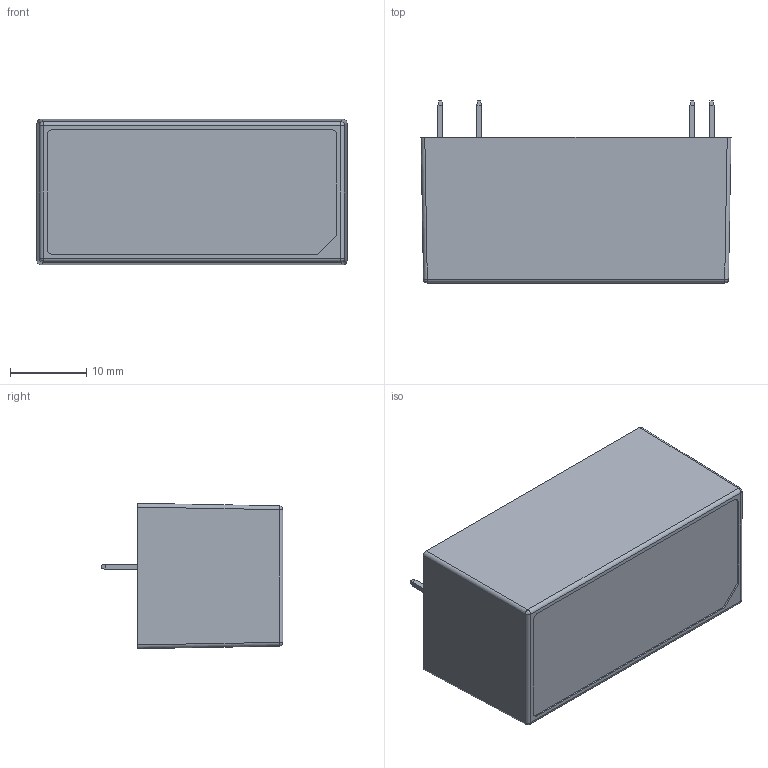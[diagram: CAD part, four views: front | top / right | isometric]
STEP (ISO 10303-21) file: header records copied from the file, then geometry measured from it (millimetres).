
FILE_DESCRIPTION (( 'STEP AP214' ), '1' );
FILE_NAME ('VCE03-E.STEP', '2019-06-14T04:59:19', ( '' ), ( '' ), 'SwSTEP 2.0', 'SolidWorks 2017', '' );
FILE_SCHEMA (( 'AUTOMOTIVE_DESIGN' ));
Length unit declared in the file: millimetre
Products named in the file (1): VCE03-E
Bounding box: 40.64 x 23.85 x 19.05 mm (x, y, z)
Volume: 6488 mm3; surface area: 11867.4 mm2
Topology: 16 solids, 16 shells, 633 faces, 1570 edges, 1001 vertices
Faces by surface type: plane 407, cylinder 118, bspline 96, cone 8, torus 4
Entity records: 28534 total; most frequent: CARTESIAN_POINT 6587, ORIENTED_EDGE 3124, DIRECTION 2958, EDGE_CURVE 1562, VECTOR 1090, LINE 1090, VERTEX_POINT 1001, AXIS2_PLACEMENT_3D 934
